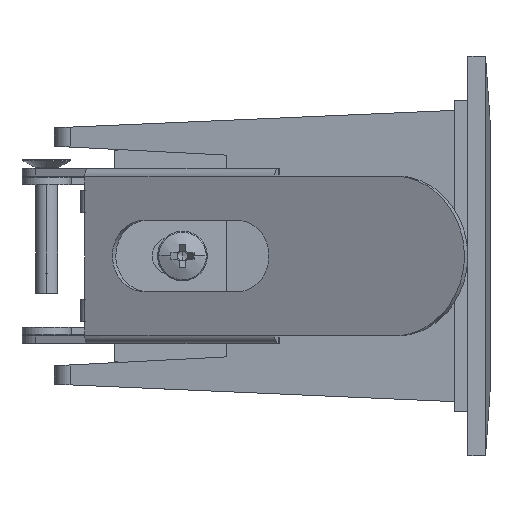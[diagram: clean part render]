
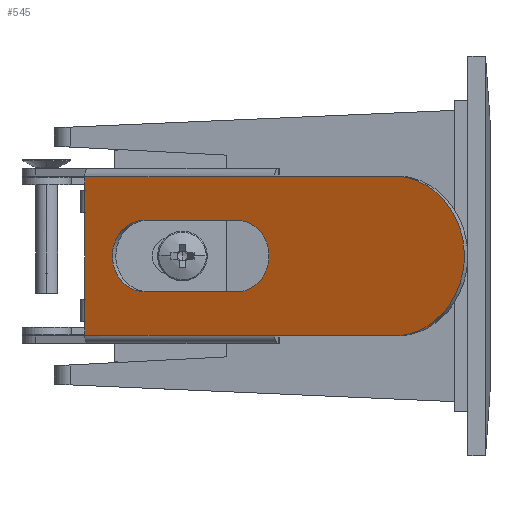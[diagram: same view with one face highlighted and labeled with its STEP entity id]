
A CAD part, left-side view. The second image highlights one B-rep face of the part: STEP entity #545.
In plain terms, the highlighted planar face has unit normal (-0.89, 0.457, 0).
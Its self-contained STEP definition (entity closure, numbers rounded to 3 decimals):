
#124=FACE_BOUND('',#2071,.T.);
#545=ADVANCED_FACE('',(#1294,#124),#11656,.T.);
#1294=FACE_OUTER_BOUND('',#2070,.T.);
#2070=EDGE_LOOP('',(#4471,#4472,#4473,#4474,#4475,#4476,#4477,#4478,#4479,
#4480,#4481,#4482));
#2071=EDGE_LOOP('',(#4483,#4484,#4485,#4486));
#4471=ORIENTED_EDGE('',*,*,#7297,.F.);
#4472=ORIENTED_EDGE('',*,*,#7313,.F.);
#4473=ORIENTED_EDGE('',*,*,#7314,.F.);
#4474=ORIENTED_EDGE('',*,*,#7315,.F.);
#4475=ORIENTED_EDGE('',*,*,#7316,.F.);
#4476=ORIENTED_EDGE('',*,*,#7317,.F.);
#4477=ORIENTED_EDGE('',*,*,#7318,.F.);
#4478=ORIENTED_EDGE('',*,*,#7319,.F.);
#4479=ORIENTED_EDGE('',*,*,#7320,.F.);
#4480=ORIENTED_EDGE('',*,*,#7321,.F.);
#4481=ORIENTED_EDGE('',*,*,#7368,.F.);
#4482=ORIENTED_EDGE('',*,*,#7322,.F.);
#4483=ORIENTED_EDGE('',*,*,#7311,.F.);
#4484=ORIENTED_EDGE('',*,*,#7366,.F.);
#4485=ORIENTED_EDGE('',*,*,#7312,.F.);
#4486=ORIENTED_EDGE('',*,*,#7364,.F.);
#7297=EDGE_CURVE('',#10863,#10861,#8929,.T.);
#7311=EDGE_CURVE('',#10882,#10880,#8943,.T.);
#7312=EDGE_CURVE('',#10881,#10883,#8944,.T.);
#7313=EDGE_CURVE('',#10884,#10863,#8945,.T.);
#7314=EDGE_CURVE('',#10885,#10884,#8946,.T.);
#7315=EDGE_CURVE('',#10886,#10885,#8947,.T.);
#7316=EDGE_CURVE('',#10887,#10886,#8948,.T.);
#7317=EDGE_CURVE('',#10888,#10887,#8949,.T.);
#7318=EDGE_CURVE('',#10889,#10888,#8950,.T.);
#7319=EDGE_CURVE('',#10890,#10889,#8951,.T.);
#7320=EDGE_CURVE('',#10891,#10890,#8952,.T.);
#7321=EDGE_CURVE('',#10892,#10891,#8953,.T.);
#7322=EDGE_CURVE('',#10861,#10893,#8954,.T.);
#7364=EDGE_CURVE('',#10880,#10881,#9893,.T.);
#7366=EDGE_CURVE('',#10883,#10882,#9894,.T.);
#7368=EDGE_CURVE('',#10893,#10892,#9896,.T.);
#8929=B_SPLINE_CURVE_WITH_KNOTS('',1,(#27364,#27365),.UNSPECIFIED.,.F.,
 .F.,(2,2),(0.,0.1),.UNSPECIFIED.);
#8943=B_SPLINE_CURVE_WITH_KNOTS('',1,(#27392,#27393),.UNSPECIFIED.,.F.,
 .F.,(2,2),(-11.8,0.),.UNSPECIFIED.);
#8944=B_SPLINE_CURVE_WITH_KNOTS('',1,(#27394,#27395),.UNSPECIFIED.,.F.,
 .F.,(2,2),(-11.8,0.),.UNSPECIFIED.);
#8945=B_SPLINE_CURVE_WITH_KNOTS('',1,(#27396,#27397),.UNSPECIFIED.,.F.,
 .F.,(2,2),(-24.,0.),.UNSPECIFIED.);
#8946=B_SPLINE_CURVE_WITH_KNOTS('',1,(#27398,#27399),.UNSPECIFIED.,.F.,
 .F.,(2,2),(-1.5,0.),.UNSPECIFIED.);
#8947=B_SPLINE_CURVE_WITH_KNOTS('',1,(#27400,#27401),.UNSPECIFIED.,.F.,
 .F.,(2,2),(-2.55,0.),.UNSPECIFIED.);
#8948=B_SPLINE_CURVE_WITH_KNOTS('',1,(#27402,#27403),.UNSPECIFIED.,.F.,
 .F.,(2,2),(-9.7,0.),.UNSPECIFIED.);
#8949=B_SPLINE_CURVE_WITH_KNOTS('',1,(#27404,#27405),.UNSPECIFIED.,.F.,
 .F.,(2,2),(-2.55,0.),.UNSPECIFIED.);
#8950=B_SPLINE_CURVE_WITH_KNOTS('',1,(#27406,#27407),.UNSPECIFIED.,.F.,
 .F.,(2,2),(-1.5,0.),.UNSPECIFIED.);
#8951=B_SPLINE_CURVE_WITH_KNOTS('',1,(#27408,#27409),.UNSPECIFIED.,.F.,
 .F.,(2,2),(-24.,0.),.UNSPECIFIED.);
#8952=B_SPLINE_CURVE_WITH_KNOTS('',1,(#27410,#27411),.UNSPECIFIED.,.F.,
 .F.,(2,2),(-0.1,0.),.UNSPECIFIED.);
#8953=B_SPLINE_CURVE_WITH_KNOTS('',1,(#27412,#27413),.UNSPECIFIED.,.F.,
 .F.,(2,2),(-15.,0.),.UNSPECIFIED.);
#8954=B_SPLINE_CURVE_WITH_KNOTS('',1,(#27414,#27415),.UNSPECIFIED.,.F.,
 .F.,(2,2),(-15.,0.),.UNSPECIFIED.);
#9893=(
BOUNDED_CURVE()
B_SPLINE_CURVE(2,(#27505,#27506,#27507,#27508,#27509),.UNSPECIFIED.,.F.,
 .F.)
B_SPLINE_CURVE_WITH_KNOTS((3,2,3),(0.,6.283,12.566),
 .UNSPECIFIED.)
CURVE()
GEOMETRIC_REPRESENTATION_ITEM()
RATIONAL_B_SPLINE_CURVE((1.,0.707,1.,0.707,1.))
REPRESENTATION_ITEM('')
);
#9894=(
BOUNDED_CURVE()
B_SPLINE_CURVE(2,(#27512,#27513,#27514,#27515,#27516),.UNSPECIFIED.,.F.,
 .F.)
B_SPLINE_CURVE_WITH_KNOTS((3,2,3),(0.,6.283,12.566),
 .UNSPECIFIED.)
CURVE()
GEOMETRIC_REPRESENTATION_ITEM()
RATIONAL_B_SPLINE_CURVE((1.,0.707,1.,0.707,1.))
REPRESENTATION_ITEM('')
);
#9896=(
BOUNDED_CURVE()
B_SPLINE_CURVE(2,(#27522,#27523,#27524,#27525,#27526),.UNSPECIFIED.,.F.,
 .F.)
B_SPLINE_CURVE_WITH_KNOTS((3,2,3),(0.,14.137,28.274),
 .UNSPECIFIED.)
CURVE()
GEOMETRIC_REPRESENTATION_ITEM()
RATIONAL_B_SPLINE_CURVE((1.,0.707,1.,0.707,1.))
REPRESENTATION_ITEM('')
);
#10861=VERTEX_POINT('',#27214);
#10863=VERTEX_POINT('',#27216);
#10880=VERTEX_POINT('',#27233);
#10881=VERTEX_POINT('',#27234);
#10882=VERTEX_POINT('',#27235);
#10883=VERTEX_POINT('',#27236);
#10884=VERTEX_POINT('',#27237);
#10885=VERTEX_POINT('',#27238);
#10886=VERTEX_POINT('',#27239);
#10887=VERTEX_POINT('',#27240);
#10888=VERTEX_POINT('',#27241);
#10889=VERTEX_POINT('',#27242);
#10890=VERTEX_POINT('',#27243);
#10891=VERTEX_POINT('',#27244);
#10892=VERTEX_POINT('',#27245);
#10893=VERTEX_POINT('',#27246);
#11656=PLANE('',#12411);
#12411=AXIS2_PLACEMENT_3D('',#26654,#12829,$);
#12829=DIRECTION('',(-0.89,0.457,0.));
#26654=CARTESIAN_POINT('',(-31.339,47.363,-10.8));
#27214=CARTESIAN_POINT('',(-44.488,21.74,9.));
#27216=CARTESIAN_POINT('',(-44.488,21.74,8.9));
#27233=CARTESIAN_POINT('',(-42.343,25.922,-4.));
#27234=CARTESIAN_POINT('',(-42.343,25.922,4.));
#27235=CARTESIAN_POINT('',(-36.955,36.42,-4.));
#27236=CARTESIAN_POINT('',(-36.955,36.42,4.));
#27237=CARTESIAN_POINT('',(-33.53,43.093,8.9));
#27238=CARTESIAN_POINT('',(-33.53,43.093,7.4));
#27239=CARTESIAN_POINT('',(-33.53,43.093,4.85));
#27240=CARTESIAN_POINT('',(-33.53,43.093,-4.85));
#27241=CARTESIAN_POINT('',(-33.53,43.093,-7.4));
#27242=CARTESIAN_POINT('',(-33.53,43.093,-8.9));
#27243=CARTESIAN_POINT('',(-44.488,21.74,-8.9));
#27244=CARTESIAN_POINT('',(-44.488,21.74,-9.));
#27245=CARTESIAN_POINT('',(-51.337,8.395,-9.));
#27246=CARTESIAN_POINT('',(-51.337,8.395,9.));
#27364=CARTESIAN_POINT('',(-44.488,21.74,8.9));
#27365=CARTESIAN_POINT('',(-44.488,21.74,9.));
#27392=CARTESIAN_POINT('',(-36.955,36.42,-4.));
#27393=CARTESIAN_POINT('',(-42.343,25.922,-4.));
#27394=CARTESIAN_POINT('',(-42.343,25.922,4.));
#27395=CARTESIAN_POINT('',(-36.955,36.42,4.));
#27396=CARTESIAN_POINT('',(-33.53,43.093,8.9));
#27397=CARTESIAN_POINT('',(-44.488,21.74,8.9));
#27398=CARTESIAN_POINT('',(-33.53,43.093,7.4));
#27399=CARTESIAN_POINT('',(-33.53,43.093,8.9));
#27400=CARTESIAN_POINT('',(-33.53,43.093,4.85));
#27401=CARTESIAN_POINT('',(-33.53,43.093,7.4));
#27402=CARTESIAN_POINT('',(-33.53,43.093,-4.85));
#27403=CARTESIAN_POINT('',(-33.53,43.093,4.85));
#27404=CARTESIAN_POINT('',(-33.53,43.093,-7.4));
#27405=CARTESIAN_POINT('',(-33.53,43.093,-4.85));
#27406=CARTESIAN_POINT('',(-33.53,43.093,-8.9));
#27407=CARTESIAN_POINT('',(-33.53,43.093,-7.4));
#27408=CARTESIAN_POINT('',(-44.488,21.74,-8.9));
#27409=CARTESIAN_POINT('',(-33.53,43.093,-8.9));
#27410=CARTESIAN_POINT('',(-44.488,21.74,-9.));
#27411=CARTESIAN_POINT('',(-44.488,21.74,-8.9));
#27412=CARTESIAN_POINT('',(-51.337,8.395,-9.));
#27413=CARTESIAN_POINT('',(-44.488,21.74,-9.));
#27414=CARTESIAN_POINT('',(-44.488,21.74,9.));
#27415=CARTESIAN_POINT('',(-51.337,8.395,9.));
#27505=CARTESIAN_POINT('',(-42.343,25.922,-4.));
#27506=CARTESIAN_POINT('',(-44.169,22.363,-4.));
#27507=CARTESIAN_POINT('',(-44.169,22.363,0.));
#27508=CARTESIAN_POINT('',(-44.169,22.363,4.));
#27509=CARTESIAN_POINT('',(-42.343,25.922,4.));
#27512=CARTESIAN_POINT('',(-36.955,36.42,4.));
#27513=CARTESIAN_POINT('',(-35.128,39.979,4.));
#27514=CARTESIAN_POINT('',(-35.128,39.979,0.));
#27515=CARTESIAN_POINT('',(-35.128,39.979,-4.));
#27516=CARTESIAN_POINT('',(-36.955,36.42,-4.));
#27522=CARTESIAN_POINT('',(-51.337,8.395,9.));
#27523=CARTESIAN_POINT('',(-55.447,0.388,9.));
#27524=CARTESIAN_POINT('',(-55.447,0.388,0.));
#27525=CARTESIAN_POINT('',(-55.447,0.388,-9.));
#27526=CARTESIAN_POINT('',(-51.337,8.395,-9.));
